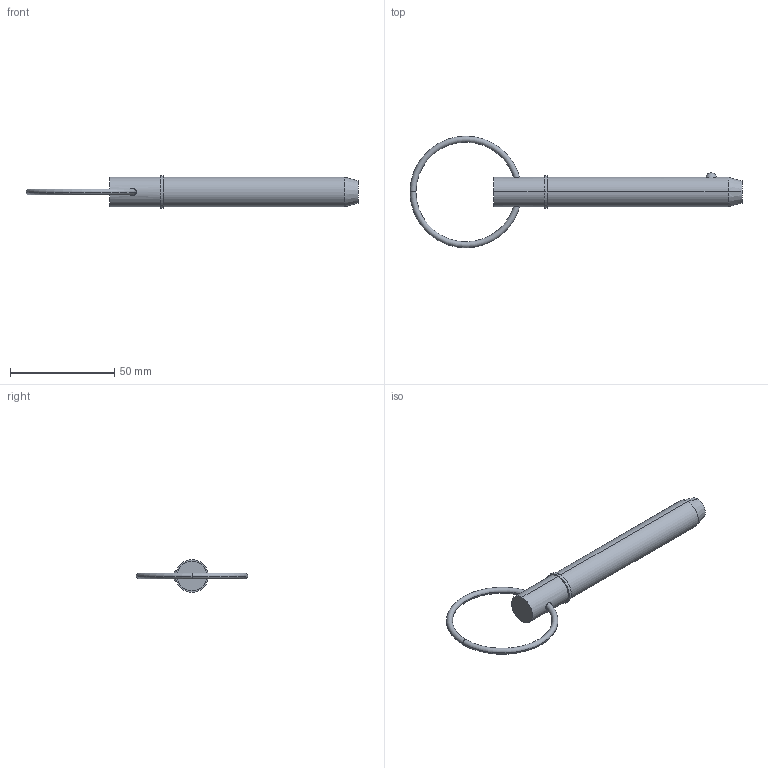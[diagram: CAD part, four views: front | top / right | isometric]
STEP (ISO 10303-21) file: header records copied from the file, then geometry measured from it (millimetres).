
FILE_DESCRIPTION (( 'STEP AP203' ), '1' );
FILE_NAME ('33014.W5630.step', '2024-11-04T08:32:03', ( '' ), ( '' ), 'SwSTEP 2.0', 'SolidWorks 2019', '' );
FILE_SCHEMA (( 'CONFIG_CONTROL_DESIGN' ));
Length unit declared in the file: millimetre
Products named in the file (3): 33014.W5630; Part1_33014.W5630; Part2_33014.W5630
Assembly tree (2 placements, depth 2):
  33014.W5630
    Part1_33014.W5630
    Part2_33014.W5630
Bounding box: 159.56 x 53.66 x 15.72 mm (x, y, z)
Volume: 19853.8 mm3; surface area: 7242.1 mm2
Topology: 2 solids, 2 shells, 22 faces, 43 edges, 26 vertices
Faces by surface type: torus 8, cylinder 6, plane 4, sphere 2, cone 2
Entity records: 1039 total; most frequent: CARTESIAN_POINT 262, DIRECTION 120, ORIENTED_EDGE 86, AXIS2_PLACEMENT_3D 56, EDGE_CURVE 43, CIRCLE 29, EDGE_LOOP 27, VERTEX_POINT 26
